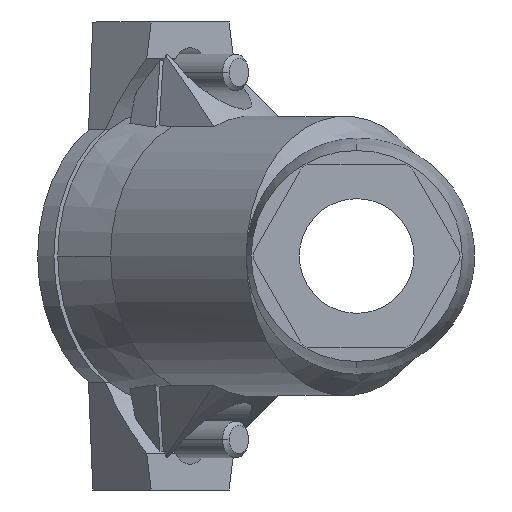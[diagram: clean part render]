
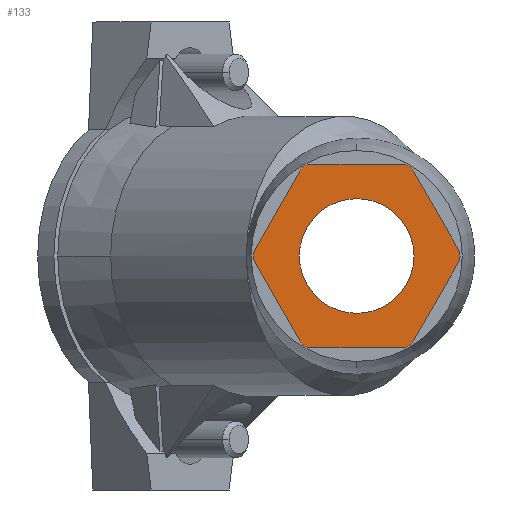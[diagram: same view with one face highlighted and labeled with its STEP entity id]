
A CAD part, left-side view. The second image highlights one B-rep face of the part: STEP entity #133.
In plain terms, the highlighted planar face has unit normal (-1, 0, 0).
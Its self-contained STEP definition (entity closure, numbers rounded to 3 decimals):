
#6 = ORIENTED_EDGE ( 'NONE', *, *, #13, .F. ) ;
#7 = ORIENTED_EDGE ( 'NONE', *, *, #11, .F. ) ;
#8 = ORIENTED_EDGE ( 'NONE', *, *, #1528, .T. ) ;
#9 = EDGE_CURVE ( 'NONE', #156, #148, #2289, .T. ) ;
#10 = ORIENTED_EDGE ( 'NONE', *, *, #1581, .T. ) ;
#11 = EDGE_CURVE ( 'NONE', #15, #156, #2285, .T. ) ;
#12 = ORIENTED_EDGE ( 'NONE', *, *, #1544, .T. ) ;
#13 = EDGE_CURVE ( 'NONE', #157, #15, #2280, .T. ) ;
#14 = ORIENTED_EDGE ( 'NONE', *, *, #162, .T. ) ;
#15 = VERTEX_POINT ( 'NONE', #2276 ) ;
#18 = ORIENTED_EDGE ( 'NONE', *, *, #9, .F. ) ;
#78 = ORIENTED_EDGE ( 'NONE', *, *, #1500, .T. ) ;
#88 = ORIENTED_EDGE ( 'NONE', *, *, #1546, .T. ) ;
#133 = ADVANCED_FACE ( 'NONE', ( #2476, #2475 ), #2474, .T. ) ;
#136 = EDGE_LOOP ( 'NONE', ( #138, #143 ) ) ;
#138 = ORIENTED_EDGE ( 'NONE', *, *, #142, .T. ) ;
#141 = ORIENTED_EDGE ( 'NONE', *, *, #146, .F. ) ;
#142 = EDGE_CURVE ( 'NONE', #1407, #1883, #2465, .T. ) ;
#143 = ORIENTED_EDGE ( 'NONE', *, *, #1844, .T. ) ;
#145 = EDGE_LOOP ( 'NONE', ( #147, #150, #141, #18, #7, #6, #14, #12, #10, #8, #88, #78 ) ) ;
#146 = EDGE_CURVE ( 'NONE', #148, #163, #2460, .T. ) ;
#147 = ORIENTED_EDGE ( 'NONE', *, *, #8475, .T. ) ;
#148 = VERTEX_POINT ( 'NONE', #2455 ) ;
#150 = ORIENTED_EDGE ( 'NONE', *, *, #154, .F. ) ;
#154 = EDGE_CURVE ( 'NONE', #163, #8474, #2526, .T. ) ;
#156 = VERTEX_POINT ( 'NONE', #2522 ) ;
#157 = VERTEX_POINT ( 'NONE', #2520 ) ;
#162 = EDGE_CURVE ( 'NONE', #157, #1540, #2501, .T. ) ;
#163 = VERTEX_POINT ( 'NONE', #2495 ) ;
#1407 = VERTEX_POINT ( 'NONE', #4891 ) ;
#1500 = EDGE_CURVE ( 'NONE', #1503, #8477, #5040, .T. ) ;
#1501 = VERTEX_POINT ( 'NONE', #5036 ) ;
#1503 = VERTEX_POINT ( 'NONE', #5035 ) ;
#1528 = EDGE_CURVE ( 'NONE', #1501, #8500, #5113, .T. ) ;
#1540 = VERTEX_POINT ( 'NONE', #5146 ) ;
#1544 = EDGE_CURVE ( 'NONE', #1540, #1563, #5145, .T. ) ;
#1546 = EDGE_CURVE ( 'NONE', #8500, #1503, #5141, .T. ) ;
#1563 = VERTEX_POINT ( 'NONE', #5161 ) ;
#1581 = EDGE_CURVE ( 'NONE', #1563, #1501, #5191, .T. ) ;
#1844 = EDGE_CURVE ( 'NONE', #1883, #1407, #5611, .T. ) ;
#1883 = VERTEX_POINT ( 'NONE', #5690 ) ;
#2276 = CARTESIAN_POINT ( 'NONE',  ( -40.215, -12.4, -18.492 ) ) ;
#2277 = DIRECTION ( 'NONE',  ( 0., 0.497, -0.868 ) ) ;
#2278 = VECTOR ( 'NONE', #2277, 1000. ) ;
#2279 = CARTESIAN_POINT ( 'NONE',  ( -40.215, -22.145, -1.492 ) ) ;
#2280 = LINE ( 'NONE', #2279, #2278 ) ;
#2281 = DIRECTION ( 'NONE',  ( 0., 0., 1. ) ) ;
#2282 = DIRECTION ( 'NONE',  ( 1., 0., 0. ) ) ;
#2283 = CARTESIAN_POINT ( 'NONE',  ( -40.215, -9.797, -17. ) ) ;
#2284 = AXIS2_PLACEMENT_3D ( 'NONE', #2283, #2282, #2281 ) ;
#2285 = CIRCLE ( 'NONE', #2284, 3. ) ;
#2286 = DIRECTION ( 'NONE',  ( 0., 1., 0. ) ) ;
#2287 = VECTOR ( 'NONE', #2286, 1000. ) ;
#2288 = CARTESIAN_POINT ( 'NONE',  ( -40.215, 9.797, -20. ) ) ;
#2289 = LINE ( 'NONE', #2288, #2287 ) ;
#2455 = CARTESIAN_POINT ( 'NONE',  ( -40.215, 9.797, -20. ) ) ;
#2456 = DIRECTION ( 'NONE',  ( 0., 0., -1. ) ) ;
#2457 = DIRECTION ( 'NONE',  ( 1., 0., 0. ) ) ;
#2458 = CARTESIAN_POINT ( 'NONE',  ( -40.215, 9.797, -17. ) ) ;
#2459 = AXIS2_PLACEMENT_3D ( 'NONE', #2458, #2457, #2456 ) ;
#2460 = CIRCLE ( 'NONE', #2459, 3. ) ;
#2461 = DIRECTION ( 'NONE',  ( 0., 0., -1. ) ) ;
#2462 = DIRECTION ( 'NONE',  ( 1., 0., 0. ) ) ;
#2463 = CARTESIAN_POINT ( 'NONE',  ( -40.215, 0., 0. ) ) ;
#2464 = AXIS2_PLACEMENT_3D ( 'NONE', #2463, #2462, #2461 ) ;
#2465 = CIRCLE ( 'NONE', #2464, 12.5 ) ;
#2469 = DIRECTION ( 'NONE',  ( 0., 0., 1. ) ) ;
#2470 = DIRECTION ( 'NONE',  ( -1., 0., 0. ) ) ;
#2471 = CARTESIAN_POINT ( 'NONE',  ( -40.215, -12.7, 0. ) ) ;
#2473 = AXIS2_PLACEMENT_3D ( 'NONE', #2471, #2470, #2469 ) ;
#2474 = PLANE ( 'NONE',  #2473 ) ;
#2475 = FACE_OUTER_BOUND ( 'NONE', #145, .T. ) ;
#2476 = FACE_BOUND ( 'NONE', #136, .T. ) ;
#2495 = CARTESIAN_POINT ( 'NONE',  ( -40.215, 12.4, -18.492 ) ) ;
#2497 = DIRECTION ( 'NONE',  ( 0., 0., -1. ) ) ;
#2499 = DIRECTION ( 'NONE',  ( -1., 0., 0. ) ) ;
#2500 = AXIS2_PLACEMENT_3D ( 'NONE', #2506, #2499, #2497 ) ;
#2501 = CIRCLE ( 'NONE', #2500, 3. ) ;
#2506 = CARTESIAN_POINT ( 'NONE',  ( -40.215, -19.542, 0. ) ) ;
#2520 = CARTESIAN_POINT ( 'NONE',  ( -40.215, -22.145, -1.492 ) ) ;
#2522 = CARTESIAN_POINT ( 'NONE',  ( -40.215, -9.797, -20. ) ) ;
#2523 = DIRECTION ( 'NONE',  ( 0., 0.497, 0.868 ) ) ;
#2524 = VECTOR ( 'NONE', #2523, 1000. ) ;
#2525 = CARTESIAN_POINT ( 'NONE',  ( -40.215, 22.145, -1.492 ) ) ;
#2526 = LINE ( 'NONE', #2525, #2524 ) ;
#4891 = CARTESIAN_POINT ( 'NONE',  ( -40.215, 0., -12.5 ) ) ;
#5035 = CARTESIAN_POINT ( 'NONE',  ( -40.215, 12.4, 18.492 ) ) ;
#5036 = CARTESIAN_POINT ( 'NONE',  ( -40.215, -9.797, 20. ) ) ;
#5037 = DIRECTION ( 'NONE',  ( 0., 0.497, -0.868 ) ) ;
#5038 = VECTOR ( 'NONE', #5037, 1000. ) ;
#5039 = CARTESIAN_POINT ( 'NONE',  ( -40.215, 22.145, 1.492 ) ) ;
#5040 = LINE ( 'NONE', #5039, #5038 ) ;
#5110 = DIRECTION ( 'NONE',  ( 0., 1., 0. ) ) ;
#5111 = VECTOR ( 'NONE', #5110, 1000. ) ;
#5112 = CARTESIAN_POINT ( 'NONE',  ( -40.215, 9.797, 20. ) ) ;
#5113 = LINE ( 'NONE', #5112, #5111 ) ;
#5137 = DIRECTION ( 'NONE',  ( 0., 0., 1. ) ) ;
#5138 = DIRECTION ( 'NONE',  ( -1., 0., 0. ) ) ;
#5139 = CARTESIAN_POINT ( 'NONE',  ( -40.215, 9.797, 17. ) ) ;
#5140 = AXIS2_PLACEMENT_3D ( 'NONE', #5139, #5138, #5137 ) ;
#5141 = CIRCLE ( 'NONE', #5140, 3. ) ;
#5142 = DIRECTION ( 'NONE',  ( 0., 0.497, 0.868 ) ) ;
#5143 = VECTOR ( 'NONE', #5142, 1000. ) ;
#5144 = CARTESIAN_POINT ( 'NONE',  ( -40.215, -22.145, 1.492 ) ) ;
#5145 = LINE ( 'NONE', #5144, #5143 ) ;
#5146 = CARTESIAN_POINT ( 'NONE',  ( -40.215, -22.145, 1.492 ) ) ;
#5161 = CARTESIAN_POINT ( 'NONE',  ( -40.215, -12.4, 18.492 ) ) ;
#5187 = DIRECTION ( 'NONE',  ( 0., 0., -1. ) ) ;
#5188 = DIRECTION ( 'NONE',  ( -1., 0., 0. ) ) ;
#5189 = CARTESIAN_POINT ( 'NONE',  ( -40.215, -9.797, 17. ) ) ;
#5190 = AXIS2_PLACEMENT_3D ( 'NONE', #5189, #5188, #5187 ) ;
#5191 = CIRCLE ( 'NONE', #5190, 3. ) ;
#5607 = DIRECTION ( 'NONE',  ( 0., 0., -1. ) ) ;
#5608 = DIRECTION ( 'NONE',  ( 1., 0., 0. ) ) ;
#5609 = CARTESIAN_POINT ( 'NONE',  ( -40.215, 0., 0. ) ) ;
#5610 = AXIS2_PLACEMENT_3D ( 'NONE', #5609, #5608, #5607 ) ;
#5611 = CIRCLE ( 'NONE', #5610, 12.5 ) ;
#5690 = CARTESIAN_POINT ( 'NONE',  ( -40.215, 0., 12.5 ) ) ;
#7417 = CARTESIAN_POINT ( 'NONE',  ( -40.215, 22.145, 1.492 ) ) ;
#7418 = DIRECTION ( 'NONE',  ( 0., 0., -1. ) ) ;
#7419 = DIRECTION ( 'NONE',  ( -1., 0., 0. ) ) ;
#7420 = CARTESIAN_POINT ( 'NONE',  ( -40.215, 19.542, 0. ) ) ;
#7421 = AXIS2_PLACEMENT_3D ( 'NONE', #7420, #7419, #7418 ) ;
#7422 = CIRCLE ( 'NONE', #7421, 3. ) ;
#7423 = CARTESIAN_POINT ( 'NONE',  ( -40.215, 22.145, -1.492 ) ) ;
#7431 = CARTESIAN_POINT ( 'NONE',  ( -40.215, 9.797, 20. ) ) ;
#8474 = VERTEX_POINT ( 'NONE', #7423 ) ;
#8475 = EDGE_CURVE ( 'NONE', #8477, #8474, #7422, .T. ) ;
#8477 = VERTEX_POINT ( 'NONE', #7417 ) ;
#8500 = VERTEX_POINT ( 'NONE', #7431 ) ;
